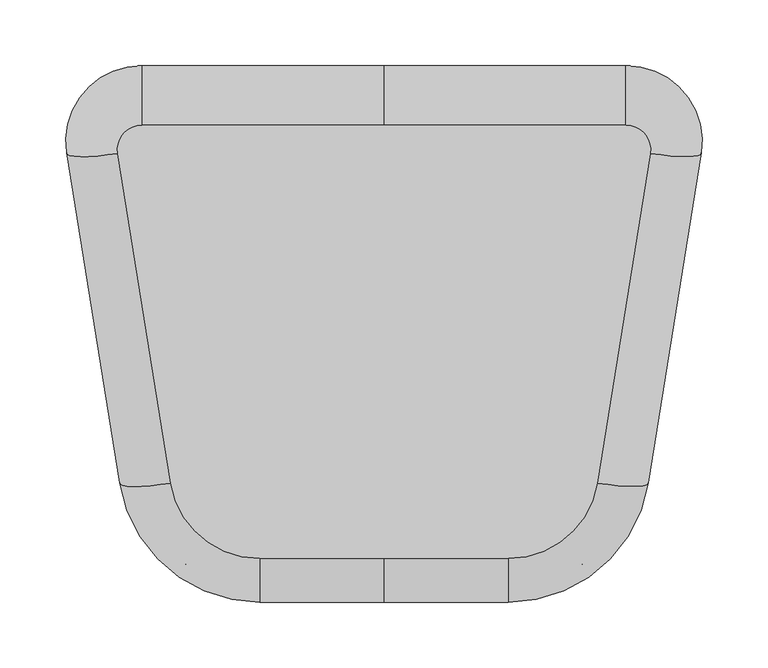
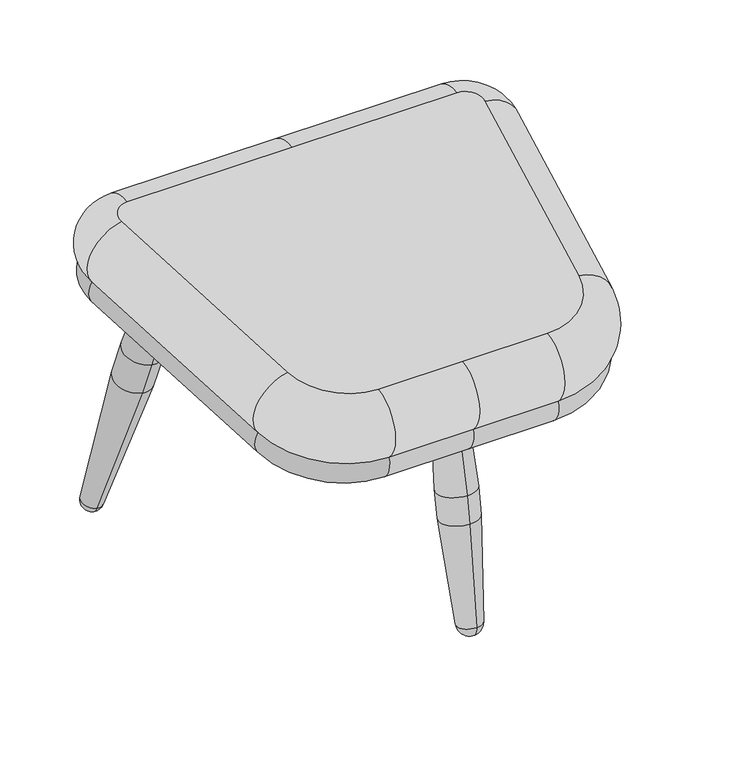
"""IFC4 building model written with IfcOpenShell, lengths in millimetres: furniture geometry, Audo Copenhagen - Brdr P Collection - Oda - Ottoman : Audo Copenhagen - Brdr P Collection - Oda - Ottoman."""

import ifcopenshell
import ifcopenshell.guid

model = None  # the IFC model being written
_history = None  # IfcOwnerHistory: only IFC2X3 demands one
_inside = {}  # id of a spatial element -> (the spatial element, [elements in it])
_under = {}  # id of a project, library or spatial element -> (it, [spatial elements below it])
_declared = {}  # id of a project -> (the project, [libraries it declares])
_typed = {}  # id of a type object -> (the type object, [elements of that type])
_made_of = {}  # id of a material, layer set ... -> (it, [elements and type objects made of it])


def new_model(schema):
    """Start an empty IFC model of exactly this schema.

    Asked for "IFC4X3", IfcOpenShell would pick the latest addendum, in which some entities
    have other attributes; the version numbers below select the first issue.
    IFC2X3 requires an IfcOwnerHistory on every rooted entity: one is made here for all.
    """
    global model, _history
    if schema == "IFC4X3":
        model = ifcopenshell.file(schema_version=(4, 3, 0, 0))
    else:
        model = ifcopenshell.file(schema=schema)
    _inside.clear()
    _under.clear()
    _declared.clear()
    _typed.clear()
    _made_of.clear()
    _history = None
    if model.schema == "IFC2X3":
        org = make("IfcOrganization", Name="unknown")
        user = make(
            "IfcPersonAndOrganization",
            ThePerson=make("IfcPerson", FamilyName="unknown"),
            TheOrganization=org,
        )
        app = make(
            "IfcApplication",
            ApplicationDeveloper=org,
            Version="unknown",
            ApplicationFullName="unknown",
            ApplicationIdentifier="unknown",
        )
        _history = make(
            "IfcOwnerHistory",
            OwningUser=user,
            OwningApplication=app,
            ChangeAction="ADDED",
            CreationDate=0,
        )
    return model


def make(cls, **values):
    """One entity of the class cls with the attributes given. An attribute that is None is left unset."""
    return model.create_entity(
        cls, **{name: value for name, value in values.items() if value is not None}
    )


def rooted(cls, **values):
    """An entity with a GlobalId (a new one), such as an element, a storey or a relation."""
    return make(cls, GlobalId=ifcopenshell.guid.new(), OwnerHistory=_history, **values)


def si_unit(unit_type, name, prefix=None):
    """IfcSIUnit, for example si_unit("LENGTHUNIT", "METRE", prefix="MILLI")."""
    return make("IfcSIUnit", UnitType=unit_type, Prefix=prefix, Name=name)


def assignment(units):
    """IfcUnitAssignment: the units of a project."""
    return None if units is None else make("IfcUnitAssignment", Units=units)


def point(xyz):
    """IfcCartesianPoint."""
    return None if xyz is None else make("IfcCartesianPoint", Coordinates=xyz)


def direction(xyz):
    """IfcDirection."""
    return None if xyz is None else make("IfcDirection", DirectionRatios=xyz)


def frame(location, z_axis=None, x_axis=None):
    """IfcAxis2Placement3D, a coordinate frame: its origin and axes. An axis left out is left unset."""
    return make(
        "IfcAxis2Placement3D",
        Location=point(location),
        Axis=direction(z_axis),
        RefDirection=direction(x_axis),
    )


def origin():
    """The frame at (0, 0, 0) with its axes left unset."""
    return frame((0.0, 0.0, 0.0))


def place(relative_to, where):
    """IfcLocalPlacement: puts the frame where relative to a parent placement (None: the world)."""
    return make(
        "IfcLocalPlacement", PlacementRelTo=relative_to, RelativePlacement=where
    )


def context(
    kind, dimensions, precision=None, world=None, true_north=None, identifier=None
):
    """IfcGeometricRepresentationContext, for example the 3D "Model" context."""
    return make(
        "IfcGeometricRepresentationContext",
        ContextIdentifier=identifier,
        ContextType=kind,
        CoordinateSpaceDimension=dimensions,
        Precision=precision,
        WorldCoordinateSystem=world,
        TrueNorth=true_north,
    )


def project(units=None, contexts=None):
    """IfcProject with its units and contexts."""
    return rooted(
        "IfcProject",
        Name="project",
        RepresentationContexts=contexts,
        UnitsInContext=assignment(units),
    )


def spatial(cls, under=None, at=None, **own):
    """A site, building, storey or space (cls), placed at a placement, below another one or the project."""
    s = rooted(cls, ObjectPlacement=at, **own)
    if under is not None:
        _under.setdefault(under.id(), (under, []))[1].append(s)
    return s


def polyline(points):
    """IfcPolyline through the points."""
    return make("IfcPolyline", Points=[point(p) for p in points])


def circle_curve(where, radius):
    """IfcCircle in the frame where."""
    return make("IfcCircle", Position=where, Radius=radius)


def ellipse_curve(where, semi_axis1, semi_axis2):
    """IfcEllipse in the frame where."""
    return make(
        "IfcEllipse", Position=where, SemiAxis1=semi_axis1, SemiAxis2=semi_axis2
    )


def trimmed(basis, trim1, trim2, sense, master):
    """IfcTrimmedCurve: the piece of a basis curve between two trims."""
    return make(
        "IfcTrimmedCurve",
        BasisCurve=basis,
        Trim1=trim1,
        Trim2=trim2,
        SenseAgreement=sense,
        MasterRepresentation=master,
    )


def shape(context_of_items, identifier, shape_type, items):
    """IfcShapeRepresentation: the items that make up one representation, for example the "Body"."""
    return make(
        "IfcShapeRepresentation",
        ContextOfItems=context_of_items,
        RepresentationIdentifier=identifier,
        RepresentationType=shape_type,
        Items=items,
    )


def source(mapping_origin, context_of_items, identifier, shape_type, items):
    """IfcRepresentationMap: a shape defined once, which mapped items show again and again."""
    return make(
        "IfcRepresentationMap",
        MappingOrigin=mapping_origin,
        MappedRepresentation=shape(context_of_items, identifier, shape_type, items),
    )


def transform(
    local_origin,
    x_axis=None,
    y_axis=None,
    z_axis=None,
    scale=None,
    scale2=None,
    scale3=None,
    uniform=True,
):
    """IfcCartesianTransformationOperator3D, or its non-uniform kind. x_axis, y_axis, z_axis: its Axis1, 2, 3."""
    if uniform:
        return make(
            "IfcCartesianTransformationOperator3D",
            Axis1=direction(x_axis),
            Axis2=direction(y_axis),
            LocalOrigin=point(local_origin),
            Scale=scale,
            Axis3=direction(z_axis),
        )
    return make(
        "IfcCartesianTransformationOperator3DnonUniform",
        Axis1=direction(x_axis),
        Axis2=direction(y_axis),
        LocalOrigin=point(local_origin),
        Scale=scale,
        Axis3=direction(z_axis),
        Scale2=scale2,
        Scale3=scale3,
    )


def mapped(mapping_source, mapping_target):
    """IfcMappedItem: shows the shape of a source again, moved by a transform."""
    return make(
        "IfcMappedItem", MappingSource=mapping_source, MappingTarget=mapping_target
    )


def made_of(thing, what):
    """Note that an element or type object is made of a material, layer set ...; save() writes the relation."""
    if what is not None:
        _made_of.setdefault(what.id(), (what, []))[1].append(thing)
    return thing


def element(
    cls,
    number,
    at=None,
    inside=None,
    cuts=None,
    type_object=None,
    material=None,
    context=None,
    identifier="Body",
    shape_type=None,
    held_by="IfcProductDefinitionShape",
    body=None,
    shapes=None,
    **own,
):
    """One element of the class cls, such as IfcWall. Its Tag is "e" and its number.

    at: its placement. inside: the storey or other place that contains it. cuts: it is an
    opening in that element (IfcRelVoidsElement). A single representation is given by context,
    identifier, shape_type and body (its items); several are given by shapes. held_by: the class
    of the entity that holds the representations. save() writes the other relations.
    """
    e = rooted(cls, Tag="e%d" % number, ObjectPlacement=at, **own)
    if body is not None:
        shapes = [shape(context, identifier, shape_type, body)]
    if shapes is not None:
        e.Representation = make(held_by, Representations=shapes)
    if inside is not None:
        _inside.setdefault(inside.id(), (inside, []))[1].append(e)
    if cuts is not None:
        rooted(
            "IfcRelVoidsElement", RelatingBuildingElement=cuts, RelatedOpeningElement=e
        )
    if type_object is not None:
        _typed.setdefault(type_object.id(), (type_object, []))[1].append(e)
    return made_of(e, material)


def aggregate(whole, parts):
    """IfcRelAggregates: a whole, such as a stair, and the parts it consists of."""
    return rooted("IfcRelAggregates", RelatingObject=whole, RelatedObjects=parts)


def save(model, path):
    """Write the relations noted so far, then the file.

    IfcRelAggregates (storeys below a building ...), IfcRelContainedInSpatialStructure (elements
    in a storey), IfcRelDefinesByType, IfcRelAssociatesMaterial and IfcRelDeclares: one each for
    every whole, place, type object, material and project.
    """
    for whole, parts in _under.values():
        aggregate(whole, parts)
    for where, things in _inside.values():
        rooted(
            "IfcRelContainedInSpatialStructure",
            RelatedElements=things,
            RelatingStructure=where,
        )
    for kind, things in _typed.values():
        rooted("IfcRelDefinesByType", RelatedObjects=things, RelatingType=kind)
    for what, things in _made_of.values():
        rooted("IfcRelAssociatesMaterial", RelatedObjects=things, RelatingMaterial=what)
    for by, libraries in _declared.values():
        rooted("IfcRelDeclares", RelatingContext=by, RelatedDefinitions=libraries)
    model.write(path)


def plane_surface(at):
    """IfcPlane: the flat surface through the origin of the frame at, square to its z axis."""
    return make("IfcPlane", Position=at)


def cylinder_surface(at, radius):
    """IfcCylindricalSurface: all points at the distance radius from the z axis of the frame at."""
    return make("IfcCylindricalSurface", Position=at, Radius=radius)


def revolved_surface(curve, axis_point, axis_direction):
    """IfcSurfaceOfRevolution: the curve turned about the line through axis_point along axis_direction."""
    return make(
        "IfcSurfaceOfRevolution",
        SweptCurve=make("IfcArbitraryOpenProfileDef", ProfileType="CURVE", Curve=curve),
        AxisPosition=make("IfcAxis1Placement", Location=point(axis_point), Axis=direction(axis_direction)),
    )


def advanced_brep(points, edges, surfaces, faces):
    """IfcAdvancedBrep: a solid bounded by faces that lie on surfaces and meet in shared edges.

    An edge is (start, end): straight between two places in points (the first is 0);
    or (start, end, curve); or (start, end, curve, False) where it runs against its curve.
    A face is (place in surfaces, loops), or (place, loops, False) where it looks against
    its surface's normal. A loop lists edges by number (the first is 1), with a minus sign
    where the edge is run from its end to its start. The first loop is the outer one.
    """
    corners = [point(p) for p in points]
    vertices = [make("IfcVertexPoint", VertexGeometry=c) for c in corners]
    made = []
    for start, end, *more in edges:
        made.append(
            make(
                "IfcEdgeCurve",
                EdgeStart=vertices[start],
                EdgeEnd=vertices[end],
                EdgeGeometry=more[0] if more else make("IfcPolyline", Points=[corners[start], corners[end]]),
                SameSense=more[1] if len(more) > 1 else True,
            )
        )
    hull = []
    for where, loops, *sense in faces:
        bounds = []
        for j, loop in enumerate(loops):
            ring = [make("IfcOrientedEdge", EdgeElement=made[abs(k) - 1], Orientation=k > 0) for k in loop]
            bounds.append(
                make(
                    "IfcFaceOuterBound" if j == 0 else "IfcFaceBound",
                    Bound=make("IfcEdgeLoop", EdgeList=ring),
                    Orientation=True,
                )
            )
        hull.append(make("IfcAdvancedFace", Bounds=bounds, FaceSurface=surfaces[where], SameSense=sense[0] if sense else True))
    return make("IfcAdvancedBrep", Outer=make("IfcClosedShell", CfsFaces=hull))


def furniture_2552bbda(model_context):
    return source(origin(), model_context, "Body", "AdvancedBrep", [
        advanced_brep(
        [(210.798482, 190.2014796, 11.0071904), (211.6223994, 167.1270855, 6.3345225), (184.9584569, 125.9830783, 157.553255), (183.4788705, 167.4199493, 165.9444064), (213.0990114, 180.9006655, -2.0397603), (161.2194318, 136.9193922, 292.1839561), (162.415244, 103.4298188, 285.4021679), (161.9503765, 120.3321454, 288.0385628), (177.0773549, 160.0941951, 202.2492053), (178.5743931, 118.1685728, 193.7590796)],
        [
            (0, 1, circle_curve(frame((211.2104407, 178.6642826, 8.6708564), z_axis=(-0.17008945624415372, -0.20141430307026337, 0.964625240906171), x_axis=(0.03497522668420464, -0.9795061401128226, -0.19835436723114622)), 11.7785858)),
            (1, 2),
            (2, 3, circle_curve(frame((184.2186637, 146.7015138, 161.7488307), z_axis=(0.17008945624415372, 0.20141430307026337, -0.964625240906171), x_axis=(0.03497522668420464, -0.9795061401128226, -0.19835436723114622)), 21.15192)),
            (3, 0),
            (1, 0, circle_curve(frame((211.2104407, 178.6642826, 8.6708564), z_axis=(-0.17008945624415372, -0.20141430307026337, 0.964625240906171), x_axis=(0.03497522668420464, -0.9795061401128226, -0.19835436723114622)), 11.7785858)),
            (3, 2, circle_curve(frame((184.2186637, 146.7015138, 161.7488307), z_axis=(0.17008945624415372, 0.20141430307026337, -0.964625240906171), x_axis=(0.03497522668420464, -0.9795061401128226, -0.19835436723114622)), 21.15192)),
            (4, 1, circle_curve(frame((211.0921064, 178.524155, 9.3419635), z_axis=(-0.9848077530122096, 0.0, -0.17364817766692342), x_axis=(0.0, -1.0000000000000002, 0.0)), 11.7991146)),
            (0, 4, circle_curve(frame((211.0921064, 178.524155, 9.3419635), z_axis=(-0.9848077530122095, 0.0, -0.173648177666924), x_axis=(-0.06851689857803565, 0.9188645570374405, 0.3885786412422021)), 11.7991146)),
            (5, 6, circle_curve(frame((161.8173379, 120.1746055, 288.793062), z_axis=(-0.17008945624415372, -0.20141430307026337, 0.964625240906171), x_axis=(0.03497522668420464, -0.9795061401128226, -0.19835436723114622)), 17.095132)),
            (6, 7),
            (7, 5),
            (6, 5, circle_curve(frame((161.8173379, 120.1746055, 288.793062), z_axis=(-0.17008945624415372, -0.20141430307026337, 0.964625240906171), x_axis=(0.03497522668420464, -0.9795061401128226, -0.19835436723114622)), 17.095132)),
            (8, 9, circle_curve(frame((177.825874, 139.1313839, 198.0041425), z_axis=(-0.17008945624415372, -0.20141430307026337, 0.964625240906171), x_axis=(0.03497522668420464, -0.9795061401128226, -0.19835436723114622)), 21.4014086)),
            (9, 6),
            (5, 8),
            (9, 8, circle_curve(frame((177.825874, 139.1313839, 198.0041425), z_axis=(-0.17008945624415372, -0.20141430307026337, 0.964625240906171), x_axis=(0.03497522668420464, -0.9795061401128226, -0.19835436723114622)), 21.4014086)),
            (2, 9, circle_curve(frame((168.8201157, 472.8286943, 249.0783358), z_axis=(-0.9848077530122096, 0.0, -0.17364817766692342), x_axis=(0.0, -1.0000000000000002, 0.0)), 359.0810045)),
            (8, 3, circle_curve(frame((192.4147067, -187.9546346, 115.266761), z_axis=(-0.9848077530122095, 0.0, -0.173648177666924), x_axis=(-0.06851689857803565, 0.9188645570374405, 0.3885786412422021)), 359.0810045)),
        ],
        [
            revolved_surface(polyline([(184.9584569, 125.9830783, 157.553255), (211.6223994, 167.1270855, 6.3345225)]), (161.9503765, 120.3321454, 288.0385628), (0.17008945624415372, 0.20141430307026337, -0.964625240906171)),
            revolved_surface(trimmed(ellipse_curve(frame((211.0921064, 178.524155, 9.3419635), z_axis=(0.9848077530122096, 0.0, 0.17364817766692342), x_axis=(0.0, -1.0000000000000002, 0.0)), 11.7991146, 11.7991146), [point((211.6223994, 167.1270855, 6.3345225))], [point((213.0990114, 180.9006655, -2.0397603))], True, "CARTESIAN"), (161.9503765, 120.3321454, 288.0385628), (0.17008945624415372, 0.20141430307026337, -0.964625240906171)),
            revolved_surface(polyline([(161.9503765, 120.3321454, 288.0385628), (162.415244, 103.4298188, 285.4021679)]), (161.9503765, 120.3321454, 288.0385628), (0.17008945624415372, 0.20141430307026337, -0.964625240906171)),
            revolved_surface(polyline([(162.415244, 103.4298188, 285.4021679), (178.5743931, 118.1685728, 193.7590796)]), (161.9503765, 120.3321454, 288.0385628), (0.17008945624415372, 0.20141430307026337, -0.964625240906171)),
            revolved_surface(trimmed(ellipse_curve(frame((168.8201157, 472.8286943, 249.0783358), z_axis=(0.9848077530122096, 0.0, 0.17364817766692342), x_axis=(0.0, -1.0000000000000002, 0.0)), 359.0810045, 359.0810045), [point((178.5743931, 118.1685728, 193.7590796))], [point((184.9584569, 125.9830783, 157.553255))], True, "CARTESIAN"), (161.9503765, 120.3321454, 288.0385628), (0.17008945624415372, 0.20141430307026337, -0.964625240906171)),
        ],
        [
            (0, [[1, 2, 3, 4]]),
            (0, [[5, -4, 6, -2]]),
            (1, [[7, -1, 8]]),
            (1, [[-8, -5, -7]]),
            (2, [[9, 10, 11]]),
            (2, [[12, -11, -10]]),
            (3, [[13, 14, -9, 15]]),
            (3, [[16, -15, -12, -14]]),
            (4, [[-3, 17, -13, 18]]),
            (4, [[-6, -18, -16, -17]]),
        ],
    ),
        advanced_brep(
        [(0.0, -172.3336909, 311.4367809), (94.349705, -172.3336909, 311.4367809), (162.2615347, -115.0445196, 320.5034219), (202.5012184, 135.8956875, 360.2174677), (183.9738058, 157.3218345, 363.608391), (0.0, 157.3218345, 363.608391), (-183.9738058, 157.3218345, 363.608391), (-202.5012184, 135.8956875, 360.2174677), (-162.2615347, -115.0445196, 320.5034219), (-94.349705, -172.3336909, 311.4367809), (94.349705, -163.0192129, 209.6553785), (0.0, -163.0192129, 209.6553785), (-94.349705, -163.0192129, 209.6553785), (-168.8889588, -100.1392686, 219.6068208), (-209.1286425, 150.8009385, 259.3208666), (-183.9738058, 179.8914133, 263.924754), (0.0, 179.8914133, 263.924754), (183.9738058, 179.8914133, 263.924754), (209.1286425, 150.8009385, 259.3208666), (168.8889588, -100.1392686, 219.6068208), (0.0, -193.0505364, 243.8302624), (94.349705, -193.0505364, 243.8302624), (192.9096272, -109.9071977, 256.9886096), (233.1493109, 141.0330094, 296.7026554), (183.9738058, 197.9023426, 305.7028524), (0.0, 197.9023426, 305.7028524), (-183.9738058, 197.9023426, 305.7028524), (-233.1493109, 141.0330094, 296.7026554), (-192.9096272, -109.9071977, 256.9886096), (-94.349705, -193.0505364, 243.8302624)],
        [
            (0, 1),
            (1, 2, circle_curve(frame((94.349705, -104.4205663, 322.1847793), z_axis=(0.0, -0.15631551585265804, 0.9877071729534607), x_axis=(0.0, -0.9877071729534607, -0.15631551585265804)), 68.7583592)),
            (2, 3),
            (3, 4, circle_curve(frame((183.9738058, 138.7940686, 360.6761684), z_axis=(0.0, -0.15631551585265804, 0.9877071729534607), x_axis=(0.9876883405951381, -0.15451144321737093, -0.024453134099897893)), 18.7583592)),
            (4, 5),
            (5, 6),
            (6, 7, circle_curve(frame((-183.9738058, 138.7940686, 360.6761684), z_axis=(0.0, -0.15631551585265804, 0.9877071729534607), x_axis=(0.0, 0.9877071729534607, 0.15631551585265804)), 18.7583592)),
            (7, 8),
            (8, 9, circle_curve(frame((-94.349705, -104.4205663, 322.1847793), z_axis=(0.0, -0.15631551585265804, 0.9877071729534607), x_axis=(-0.9876883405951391, -0.15451144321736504, -0.024453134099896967)), 68.7583592)),
            (9, 0),
            (10, 11),
            (11, 12),
            (12, 13, circle_curve(frame((-94.349705, -88.4785379, 221.4522596), z_axis=(0.0, 0.15631551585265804, -0.9877071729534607), x_axis=(-0.9876883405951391, -0.15451144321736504, -0.024453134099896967)), 75.4683949)),
            (13, 14),
            (14, 15, circle_curve(frame((-183.9738058, 154.736097, 259.9436487), z_axis=(0.0, 0.15631551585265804, -0.9877071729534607), x_axis=(0.0, 0.9877071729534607, 0.15631551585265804)), 25.4683949)),
            (15, 16),
            (16, 17),
            (17, 18, circle_curve(frame((183.9738058, 154.736097, 259.9436487), z_axis=(0.0, 0.15631551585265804, -0.9877071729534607), x_axis=(0.9876883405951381, -0.15451144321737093, -0.024453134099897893)), 25.4683949)),
            (18, 19),
            (19, 10, circle_curve(frame((94.349705, -88.4785379, 221.4522596), z_axis=(0.0, 0.15631551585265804, -0.9877071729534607), x_axis=(0.0, -0.9877071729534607, -0.15631551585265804)), 75.4683949)),
            (20, 21),
            (21, 1, circle_curve(frame((94.349705, -166.1833384, 272.5746937), z_axis=(-1.0, 0.0, 0.0), x_axis=(0.0, -1.0, 0.0)), 39.3457578)),
            (0, 20, circle_curve(frame((0.0, -166.1833384, 272.5746937), z_axis=(1.0, 0.0, 0.0), x_axis=(0.0, -1.0, 0.0)), 39.3457578)),
            (21, 22, circle_curve(frame((94.349705, -94.4887351, 259.4287507), z_axis=(0.0, -0.15631551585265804, 0.9877071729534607), x_axis=(0.0, -0.9877071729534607, -0.15631551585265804)), 99.788484)),
            (22, 2, circle_curve(frame((162.2615347, -108.8941672, 281.6413347), z_axis=(-0.15643446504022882, -0.9755468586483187, -0.15439101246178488), x_axis=(0.9755468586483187, -0.17704660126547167, 0.1302414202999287)), 39.3457578)),
            (22, 23),
            (23, 3, circle_curve(frame((202.5012184, 142.0460399, 321.3553805), z_axis=(-0.1564344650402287, -0.9755468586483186, -0.15439101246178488), x_axis=(0.9755468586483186, -0.17704660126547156, 0.13024142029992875)), 39.3457578)),
            (23, 24, circle_curve(frame((183.9738058, 148.7258999, 297.9201398), z_axis=(0.0, -0.15631551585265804, 0.9877071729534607), x_axis=(0.9876883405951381, -0.15451144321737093, -0.024453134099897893)), 49.788484)),
            (24, 4, circle_curve(frame((183.9738058, 163.472187, 324.7463038), z_axis=(1.0000000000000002, 0.0, 0.0), x_axis=(0.0, 0.9511309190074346, 0.3087879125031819)), 39.3457578)),
            (24, 25),
            (25, 5, circle_curve(frame((0.0, 163.472187, 324.7463038), z_axis=(1.0, 0.0, 0.0), x_axis=(0.0, 0.9511309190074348, 0.30878791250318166)), 39.3457578)),
            (25, 26),
            (26, 6, circle_curve(frame((-183.9738058, 163.472187, 324.7463038), z_axis=(1.0, 0.0, 0.0), x_axis=(0.0, 0.9511309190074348, 0.30878791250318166)), 39.3457578)),
            (26, 27, circle_curve(frame((-183.9738058, 148.7258999, 297.9201398), z_axis=(0.0, -0.15631551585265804, 0.9877071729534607), x_axis=(0.0, 0.9877071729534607, 0.15631551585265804)), 49.788484)),
            (27, 7, circle_curve(frame((-202.5012184, 142.0460399, 321.3553805), z_axis=(-0.15643446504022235, 0.9755468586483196, 0.154391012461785), x_axis=(-0.9755468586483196, -0.17704660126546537, 0.1302414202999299)), 39.3457578)),
            (27, 28),
            (28, 8, circle_curve(frame((-162.2615347, -108.8941672, 281.6413347), z_axis=(-0.15643446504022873, 0.9755468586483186, 0.1543910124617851), x_axis=(-0.9755468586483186, -0.17704660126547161, 0.1302414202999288)), 39.3457578)),
            (28, 29, circle_curve(frame((-94.349705, -94.4887351, 259.4287507), z_axis=(0.0, -0.15631551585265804, 0.9877071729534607), x_axis=(-0.9876883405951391, -0.15451144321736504, -0.024453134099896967)), 99.788484)),
            (29, 9, circle_curve(frame((-94.349705, -166.1833384, 272.5746937), z_axis=(-1.0000000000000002, 0.0, 0.0), x_axis=(0.0, -1.0000000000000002, 0.0)), 39.3457578)),
            (29, 20),
            (20, 11, circle_curve(frame((0.0, -167.2266196, 236.2406202), z_axis=(1.0, 0.0, 0.0), x_axis=(0.0, -1.0, 0.0)), 26.9161169)),
            (10, 21, circle_curve(frame((94.349705, -167.2266196, 236.2406202), z_axis=(-1.0, 0.0, 0.0), x_axis=(0.0, -1.0, 0.0)), 26.9161169)),
            (19, 22, circle_curve(frame((168.8889588, -104.3466752, 246.1920625), z_axis=(-0.15643446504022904, -0.9755468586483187, -0.15439101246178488), x_axis=(0.9755468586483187, -0.17704660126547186, 0.13024142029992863)), 26.9161169)),
            (18, 23, circle_curve(frame((209.1286425, 146.5935318, 285.9061084), z_axis=(-0.1564344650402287, -0.9755468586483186, -0.15439101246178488), x_axis=(0.9755468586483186, -0.17704660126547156, 0.13024142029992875)), 26.9161169)),
            (17, 24, circle_curve(frame((183.9738058, 175.6840066, 290.5099957), z_axis=(1.0000000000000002, 0.0, 0.0), x_axis=(0.0, 0.9511309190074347, 0.30878791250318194)), 26.9161169)),
            (16, 25, circle_curve(frame((0.0, 175.6840066, 290.5099957), z_axis=(1.0, 0.0, 0.0), x_axis=(0.0, 0.9511309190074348, 0.30878791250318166)), 26.9161169)),
            (15, 26, circle_curve(frame((-183.9738058, 175.6840066, 290.5099957), z_axis=(1.0, 0.0, 0.0), x_axis=(0.0, 0.9511309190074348, 0.30878791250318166)), 26.9161169)),
            (14, 27, circle_curve(frame((-209.1286425, 146.5935318, 285.9061084), z_axis=(-0.15643446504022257, 0.9755468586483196, 0.154391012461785), x_axis=(-0.9755468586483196, -0.1770466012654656, 0.13024142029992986)), 26.9161169)),
            (13, 28, circle_curve(frame((-168.8889588, -104.3466752, 246.1920625), z_axis=(-0.15643446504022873, 0.9755468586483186, 0.1543910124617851), x_axis=(-0.9755468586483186, -0.17704660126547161, 0.1302414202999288)), 26.9161169)),
            (12, 29, circle_curve(frame((-94.349705, -167.2266196, 236.2406202), z_axis=(-1.0000000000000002, 0.0, 0.0), x_axis=(0.0, -1.0000000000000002, 0.0)), 26.9161169)),
        ],
        [
            plane_surface(frame((-123.9738058, 138.7940686, 360.6761684), z_axis=(0.0, -0.15631551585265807, 0.9877071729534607), x_axis=(0.0, 0.9877071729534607, 0.15631551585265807))),
            plane_surface(frame((-123.9738058, 154.736097, 259.9436487), z_axis=(0.0, 0.15631551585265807, -0.9877071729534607), x_axis=(0.0, -0.9877071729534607, -0.15631551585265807))),
            cylinder_surface(frame((0.0, -166.1833384, 272.5746937), z_axis=(1.0, 0.0, 0.0), x_axis=(0.0, -1.0, 0.0)), 39.3457578),
            revolved_surface(trimmed(ellipse_curve(frame((94.349705, -166.1833384, 272.5746937), z_axis=(-1.0, 0.0, 0.0), x_axis=(0.0, -1.0, 0.0)), 39.3457578, 39.3457578), [point((94.349705, -193.0505364, 243.8302624))], [point((94.349705, -172.3336909, 311.4367809))], True, "CARTESIAN"), (94.349705, -104.4205663, 322.1847793), (0.0, -0.15631551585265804, 0.9877071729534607)),
            cylinder_surface(frame((162.2615347, -108.8941672, 281.6413347), z_axis=(0.1564344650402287, 0.9755468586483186, 0.15439101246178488), x_axis=(0.9755468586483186, -0.17704660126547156, 0.13024142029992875)), 39.3457578),
            revolved_surface(trimmed(ellipse_curve(frame((202.5012184, 142.0460399, 321.3553805), z_axis=(-0.1564344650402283, -0.9755468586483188, -0.1543910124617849), x_axis=(0.9755468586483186, -0.17704660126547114, 0.13024142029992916)), 39.3457578, 39.3457578), [point((233.1493109, 141.0330094, 296.7026554))], [point((202.5012184, 135.8956875, 360.2174677))], True, "CARTESIAN"), (183.9738058, 138.7940686, 360.6761684), (0.0, -0.15631551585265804, 0.9877071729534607)),
            cylinder_surface(frame((183.9738058, 163.472187, 324.7463038), z_axis=(-1.0, 0.0, 0.0), x_axis=(0.0, 0.9511309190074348, 0.30878791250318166)), 39.3457578),
            cylinder_surface(frame((0.0, 163.472187, 324.7463038), z_axis=(-1.0, 0.0, 0.0), x_axis=(0.0, 0.9511309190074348, 0.30878791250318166)), 39.3457578),
            revolved_surface(trimmed(ellipse_curve(frame((-183.9738058, 163.472187, 324.7463038), z_axis=(1.0, 0.0, 0.0), x_axis=(0.0, 0.9511309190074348, 0.3087879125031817)), 39.3457578, 39.3457578), [point((-183.9738058, 197.9023426, 305.7028524))], [point((-183.9738058, 157.3218345, 363.608391))], True, "CARTESIAN"), (-183.9738058, 138.7940686, 360.6761684), (0.0, -0.15631551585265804, 0.9877071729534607)),
            cylinder_surface(frame((-202.5012184, 142.0460399, 321.3553805), z_axis=(0.15643446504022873, -0.9755468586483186, -0.1543910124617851), x_axis=(-0.9755468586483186, -0.17704660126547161, 0.1302414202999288)), 39.3457578),
            revolved_surface(trimmed(ellipse_curve(frame((-162.2615347, -108.8941672, 281.6413347), z_axis=(-0.1564344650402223, 0.9755468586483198, 0.1543910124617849), x_axis=(-0.9755468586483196, -0.17704660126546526, 0.1302414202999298)), 39.3457578, 39.3457578), [point((-192.9096272, -109.9071977, 256.9886096))], [point((-162.2615347, -115.0445196, 320.5034219))], True, "CARTESIAN"), (-94.349705, -104.4205663, 322.1847793), (0.0, -0.15631551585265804, 0.9877071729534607)),
            cylinder_surface(frame((-94.349705, -166.1833384, 272.5746937), z_axis=(1.0, 0.0, 0.0), x_axis=(0.0, -1.0, 0.0)), 39.3457578),
            cylinder_surface(frame((0.0, -167.2266196, 236.2406202), z_axis=(1.0, 0.0, 0.0), x_axis=(0.0, -1.0, 0.0)), 26.9161169),
            revolved_surface(trimmed(ellipse_curve(frame((94.349705, -167.2266196, 236.2406202), z_axis=(-1.0, 0.0, 0.0), x_axis=(0.0, -1.0, 0.0)), 26.9161169, 26.9161169), [point((94.349705, -163.0192129, 209.6553785))], [point((94.349705, -193.0505364, 243.8302624))], True, "CARTESIAN"), (94.349705, -104.4205663, 322.1847793), (0.0, -0.15631551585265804, 0.9877071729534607)),
            cylinder_surface(frame((168.8889588, -104.3466752, 246.1920625), z_axis=(0.1564344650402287, 0.9755468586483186, 0.15439101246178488), x_axis=(0.9755468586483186, -0.17704660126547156, 0.13024142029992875)), 26.9161169),
            revolved_surface(trimmed(ellipse_curve(frame((209.1286425, 146.5935318, 285.9061084), z_axis=(-0.1564344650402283, -0.9755468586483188, -0.1543910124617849), x_axis=(0.9755468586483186, -0.17704660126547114, 0.13024142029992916)), 26.9161169, 26.9161169), [point((209.1286425, 150.8009385, 259.3208666))], [point((233.1493109, 141.0330094, 296.7026554))], True, "CARTESIAN"), (183.9738058, 138.7940686, 360.6761684), (0.0, -0.15631551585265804, 0.9877071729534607)),
            cylinder_surface(frame((183.9738058, 175.6840066, 290.5099957), z_axis=(-1.0, 0.0, 0.0), x_axis=(0.0, 0.9511309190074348, 0.30878791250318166)), 26.9161169),
            cylinder_surface(frame((0.0, 175.6840066, 290.5099957), z_axis=(-1.0, 0.0, 0.0), x_axis=(0.0, 0.9511309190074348, 0.30878791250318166)), 26.9161169),
            revolved_surface(trimmed(ellipse_curve(frame((-183.9738058, 175.6840066, 290.5099957), z_axis=(1.0, 0.0, 0.0), x_axis=(0.0, 0.9511309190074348, 0.3087879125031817)), 26.9161169, 26.9161169), [point((-183.9738058, 179.8914133, 263.924754))], [point((-183.9738058, 197.9023426, 305.7028524))], True, "CARTESIAN"), (-183.9738058, 138.7940686, 360.6761684), (0.0, -0.15631551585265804, 0.9877071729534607)),
            cylinder_surface(frame((-209.1286425, 146.5935318, 285.9061084), z_axis=(0.15643446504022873, -0.9755468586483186, -0.1543910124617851), x_axis=(-0.9755468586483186, -0.17704660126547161, 0.1302414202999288)), 26.9161169),
            revolved_surface(trimmed(ellipse_curve(frame((-168.8889588, -104.3466752, 246.1920625), z_axis=(-0.1564344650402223, 0.9755468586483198, 0.1543910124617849), x_axis=(-0.9755468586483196, -0.17704660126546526, 0.1302414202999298)), 26.9161169, 26.9161169), [point((-168.8889588, -100.1392686, 219.6068208))], [point((-192.9096272, -109.9071977, 256.9886096))], True, "CARTESIAN"), (-94.349705, -104.4205663, 322.1847793), (0.0, -0.15631551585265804, 0.9877071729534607)),
            cylinder_surface(frame((-94.349705, -167.2266196, 236.2406202), z_axis=(1.0, 0.0, 0.0), x_axis=(0.0, -1.0, 0.0)), 26.9161169),
        ],
        [
            (0, [[1, 2, 3, 4, 5, 6, 7, 8, 9, 10]]),
            (1, [[11, 12, 13, 14, 15, 16, 17, 18, 19, 20]]),
            (2, [[21, 22, -1, 23]]),
            (3, [[-22, 24, 25, -2]]),
            (4, [[-25, 26, 27, -3]]),
            (5, [[-27, 28, 29, -4]]),
            (6, [[-29, 30, 31, -5]]),
            (7, [[-31, 32, 33, -6]]),
            (8, [[-33, 34, 35, -7]]),
            (9, [[-35, 36, 37, -8]]),
            (10, [[-37, 38, 39, -9]]),
            (11, [[-23, -10, -39, 40]]),
            (12, [[-21, 41, -11, 42]]),
            (13, [[-24, -42, -20, 43]]),
            (14, [[-26, -43, -19, 44]]),
            (15, [[-28, -44, -18, 45]]),
            (16, [[-30, -45, -17, 46]]),
            (17, [[-32, -46, -16, 47]]),
            (18, [[-34, -47, -15, 48]]),
            (19, [[-36, -48, -14, 49]]),
            (20, [[-38, -49, -13, 50]]),
            (21, [[-40, -50, -12, -41]]),
        ],
    ),
        advanced_brep(
        [(0.0, -171.6224361, 8.3583877), (0.0, -198.6610304, 13.1260214), (0.0, -186.0856996, 127.4234712), (0.0, -144.3473516, 120.0638743), (0.0, -187.3755382, -1.9263327), (0.0, -126.6800845, 245.3519423), (0.0, -159.8364571, 251.1983053), (0.0, -143.2582708, 248.2751238), (0.0, -138.6840523, 150.6964811), (0.0, -180.9304915, 158.1456682)],
        [
            (0, 1, circle_curve(frame((0.0, -185.1417333, 10.7422046), z_axis=(0.0, 0.17364817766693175, 0.984807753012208), x_axis=(0.0, -0.9848077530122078, 0.17364817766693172)), 13.7278541)),
            (1, 2),
            (2, 3, circle_curve(frame((0.0, -165.2165256, 123.7436727), z_axis=(0.0, -0.17364817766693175, -0.984807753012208), x_axis=(0.0, -0.9848077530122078, 0.17364817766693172)), 21.1911146)),
            (3, 0),
            (1, 0, circle_curve(frame((0.0, -185.1417333, 10.7422046), z_axis=(0.0, 0.17364817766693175, 0.984807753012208), x_axis=(0.0, -0.9848077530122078, 0.17364817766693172)), 13.7278541)),
            (3, 2, circle_curve(frame((0.0, -165.2165256, 123.7436727), z_axis=(0.0, -0.17364817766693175, -0.984807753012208), x_axis=(0.0, -0.9848077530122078, 0.17364817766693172)), 21.1911146)),
            (4, 1, circle_curve(frame((0.0, -184.9866843, 11.6215309), z_axis=(-1.0000000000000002, 0.0, 0.0), x_axis=(0.0, -1.0, 0.0)), 13.7568613)),
            (0, 4, circle_curve(frame((0.0, -184.9866843, 11.6215309), z_axis=(-1.0000000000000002, 0.0, 0.0), x_axis=(0.0, 0.9396926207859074, -0.3420201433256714)), 13.7568613)),
            (5, 6, circle_curve(frame((0.0, -143.2582708, 248.2751238), z_axis=(0.0, 0.17364817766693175, 0.984807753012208), x_axis=(0.0, -0.9848077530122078, 0.17364817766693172)), 16.8339315)),
            (6, 7),
            (7, 5),
            (6, 5, circle_curve(frame((0.0, -143.2582708, 248.2751238), z_axis=(0.0, 0.17364817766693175, 0.984807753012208), x_axis=(0.0, -0.9848077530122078, 0.17364817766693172)), 16.8339315)),
            (8, 9, circle_curve(frame((0.0, -159.8072719, 154.4210747), z_axis=(0.0, 0.17364817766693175, 0.984807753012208), x_axis=(0.0, -0.9848077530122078, 0.17364817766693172)), 21.4490793)),
            (9, 6),
            (5, 8),
            (9, 8, circle_curve(frame((0.0, -159.8072719, 154.4210747), z_axis=(0.0, 0.17364817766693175, 0.984807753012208), x_axis=(0.0, -0.9848077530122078, 0.17364817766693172)), 21.4490793)),
            (2, 9, circle_curve(frame((0.0, 87.2648195, 97.3486687), z_axis=(-1.0000000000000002, 0.0, 0.0), x_axis=(0.0, -1.0, 0.0)), 275.0)),
            (8, 3, circle_curve(frame((0.0, -411.4990055, 185.2941881), z_axis=(-1.0000000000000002, 0.0, 0.0), x_axis=(0.0, 0.9396926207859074, -0.3420201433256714)), 275.0)),
        ],
        [
            revolved_surface(polyline([(0.0, -186.0856996, 127.4234712), (0.0, -198.6610304, 13.1260214)]), (0.0, -187.3502396, -1.7828572), (0.0, -0.17364817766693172, -0.9848077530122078)),
            revolved_surface(trimmed(ellipse_curve(frame((0.0, -184.9866843, 11.6215309), z_axis=(1.0000000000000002, 0.0, 0.0), x_axis=(0.0, -1.0, 0.0)), 13.7568613, 13.7568613), [point((0.0, -198.6610304, 13.1260214))], [point((0.0, -187.3755382, -1.9263327))], True, "CARTESIAN"), (0.0, -187.3502396, -1.7828572), (0.0, -0.17364817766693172, -0.9848077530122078)),
            plane_surface(frame((0.0, -143.2582708, 248.2751238), z_axis=(0.0, 0.17364817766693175, 0.9848077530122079), x_axis=(0.0, -0.9848077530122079, 0.17364817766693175))),
            revolved_surface(polyline([(0.0, -159.8364571, 251.1983053), (0.0, -180.9304915, 158.1456682)]), (0.0, -187.3502396, -1.7828572), (0.0, -0.17364817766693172, -0.9848077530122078)),
            revolved_surface(trimmed(ellipse_curve(frame((0.0, 87.2648195, 97.3486687), z_axis=(1.0000000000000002, 0.0, 0.0), x_axis=(0.0, -1.0, 0.0)), 275.0, 275.0), [point((0.0, -180.9304915, 158.1456682))], [point((0.0, -186.0856996, 127.4234712))], True, "CARTESIAN"), (0.0, -187.3502396, -1.7828572), (0.0, -0.17364817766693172, -0.9848077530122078)),
        ],
        [
            (0, [[1, 2, 3, 4]]),
            (0, [[5, -4, 6, -2]]),
            (1, [[7, -1, 8]]),
            (1, [[-8, -5, -7]]),
            (2, [[9, 10, 11]]),
            (2, [[12, -11, -10]]),
            (3, [[13, 14, -9, 15]]),
            (3, [[16, -15, -12, -14]]),
            (4, [[-3, 17, -13, 18]]),
            (4, [[-6, -18, -16, -17]]),
        ],
    ),
        advanced_brep(
        [(-183.4788705, 167.4199493, 165.9444064), (-184.9584569, 125.9830783, 157.553255), (-211.6223994, 167.1270855, 6.3345225), (-210.798482, 190.2014796, 11.0071904), (-213.0990114, 180.9006655, -2.0397603), (-161.9503765, 120.3321454, 288.0385628), (-162.415244, 103.4298188, 285.4021679), (-161.2194318, 136.9193922, 292.1839561), (-178.5743931, 118.1685728, 193.7590796), (-177.0773549, 160.0941951, 202.2492053)],
        [
            (0, 1, circle_curve(frame((-184.2186637, 146.7015138, 161.7488307), z_axis=(-0.17008945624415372, 0.2014143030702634, -0.9646252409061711), x_axis=(-0.034975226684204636, -0.9795061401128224, -0.1983543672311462)), 21.15192)),
            (1, 2),
            (2, 3, circle_curve(frame((-211.2104407, 178.6642826, 8.6708564), z_axis=(0.17008945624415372, -0.2014143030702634, 0.9646252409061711), x_axis=(-0.034975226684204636, -0.9795061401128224, -0.1983543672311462)), 11.7785858)),
            (3, 0),
            (1, 0, circle_curve(frame((-184.2186637, 146.7015138, 161.7488307), z_axis=(-0.17008945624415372, 0.2014143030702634, -0.9646252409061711), x_axis=(-0.034975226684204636, -0.9795061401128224, -0.1983543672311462)), 21.15192)),
            (3, 2, circle_curve(frame((-211.2104407, 178.6642826, 8.6708564), z_axis=(0.17008945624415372, -0.2014143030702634, 0.9646252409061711), x_axis=(-0.034975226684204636, -0.9795061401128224, -0.1983543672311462)), 11.7785858)),
            (2, 4, circle_curve(frame((-211.0921064, 178.524155, 9.3419635), z_axis=(0.9848077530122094, 0.0, -0.1736481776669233), x_axis=(0.0, -1.0, 0.0)), 11.7991146)),
            (4, 3, circle_curve(frame((-211.0921064, 178.524155, 9.3419635), z_axis=(0.9848077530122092, 0.0, -0.17364817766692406), x_axis=(0.06851689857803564, 0.9188645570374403, 0.388578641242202)), 11.7991146)),
            (5, 6),
            (6, 7, circle_curve(frame((-161.8173379, 120.1746055, 288.793062), z_axis=(0.17008945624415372, -0.2014143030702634, 0.9646252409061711), x_axis=(-0.034975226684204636, -0.9795061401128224, -0.1983543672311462)), 17.095132)),
            (7, 5),
            (7, 6, circle_curve(frame((-161.8173379, 120.1746055, 288.793062), z_axis=(0.17008945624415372, -0.2014143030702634, 0.9646252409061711), x_axis=(-0.034975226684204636, -0.9795061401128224, -0.1983543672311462)), 17.095132)),
            (6, 8),
            (8, 9, circle_curve(frame((-177.825874, 139.1313839, 198.0041425), z_axis=(0.17008945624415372, -0.2014143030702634, 0.9646252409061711), x_axis=(-0.034975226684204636, -0.9795061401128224, -0.1983543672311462)), 21.4014086)),
            (9, 7),
            (9, 8, circle_curve(frame((-177.825874, 139.1313839, 198.0041425), z_axis=(0.17008945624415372, -0.2014143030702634, 0.9646252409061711), x_axis=(-0.034975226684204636, -0.9795061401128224, -0.1983543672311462)), 21.4014086)),
            (8, 1, circle_curve(frame((-168.8201157, 472.8286943, 249.0783358), z_axis=(0.9848077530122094, 0.0, -0.1736481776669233), x_axis=(0.0, -1.0, 0.0)), 359.0810045)),
            (0, 9, circle_curve(frame((-192.4147067, -187.9546346, 115.266761), z_axis=(0.9848077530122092, 0.0, -0.17364817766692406), x_axis=(0.06851689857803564, 0.9188645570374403, 0.388578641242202)), 359.0810045)),
        ],
        [
            revolved_surface(polyline([(-211.6223994, 167.1270855, 6.3345225), (-184.9584569, 125.9830783, 157.553255)]), (-161.9503765, 120.3321454, 288.0385628), (0.1700894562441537, -0.20141430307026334, 0.9646252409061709)),
            revolved_surface(trimmed(ellipse_curve(frame((-211.0921064, 178.524155, 9.3419635), z_axis=(-0.9848077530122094, 0.0, 0.1736481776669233), x_axis=(0.0, -1.0, 0.0)), 11.7991146, 11.7991146), [point((-213.0990114, 180.9006655, -2.0397603))], [point((-211.6223994, 167.1270855, 6.3345225))], True, "CARTESIAN"), (-161.9503765, 120.3321454, 288.0385628), (0.1700894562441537, -0.20141430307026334, 0.9646252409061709)),
            revolved_surface(trimmed(ellipse_curve(frame((-211.0921064, 178.524155, 9.3419635), z_axis=(-0.9848077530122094, 0.0, 0.17364817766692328), x_axis=(0.0, -1.0, 0.0)), 11.7991146, 11.7991146), [point((-213.0990114, 180.9006655, -2.0397603))], [point((-211.6223994, 167.1270855, 6.3345225))], True, "CARTESIAN"), (-161.9503765, 120.3321454, 288.0385628), (0.1700894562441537, -0.20141430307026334, 0.9646252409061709)),
            revolved_surface(polyline([(-162.415244, 103.4298188, 285.4021679), (-161.9503765, 120.3321454, 288.0385628)]), (-161.9503765, 120.3321454, 288.0385628), (0.1700894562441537, -0.20141430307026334, 0.9646252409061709)),
            revolved_surface(polyline([(-178.5743931, 118.1685728, 193.7590796), (-162.415244, 103.4298188, 285.4021679)]), (-161.9503765, 120.3321454, 288.0385628), (0.1700894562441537, -0.20141430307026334, 0.9646252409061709)),
            revolved_surface(trimmed(ellipse_curve(frame((-168.8201157, 472.8286943, 249.0783358), z_axis=(-0.9848077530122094, 0.0, 0.1736481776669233), x_axis=(0.0, -1.0, 0.0)), 359.0810045, 359.0810045), [point((-184.9584569, 125.9830783, 157.553255))], [point((-178.5743931, 118.1685728, 193.7590796))], True, "CARTESIAN"), (-161.9503765, 120.3321454, 288.0385628), (0.1700894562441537, -0.20141430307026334, 0.9646252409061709)),
            revolved_surface(trimmed(ellipse_curve(frame((-168.8201157, 472.8286943, 249.0783358), z_axis=(-0.9848077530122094, 0.0, 0.17364817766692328), x_axis=(0.0, -1.0, 0.0)), 359.0810045, 359.0810045), [point((-184.9584569, 125.9830783, 157.553255))], [point((-178.5743931, 118.1685728, 193.7590796))], True, "CARTESIAN"), (-161.9503765, 120.3321454, 288.0385628), (0.1700894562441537, -0.20141430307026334, 0.9646252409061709)),
        ],
        [
            (0, [[1, 2, 3, 4]]),
            (0, [[5, -4, 6, -2]]),
            (1, [[-3, 7, 8]]),
            (2, [[-6, -8, -7]]),
            (3, [[9, 10, 11]]),
            (3, [[-11, 12, -9]]),
            (4, [[-10, 13, 14, 15]]),
            (4, [[-12, -15, 16, -13]]),
            (5, [[-14, 17, -1, 18]]),
            (6, [[-16, -18, -5, -17]]),
        ],
    ),
    ])


if __name__ == "__main__":
    model = new_model("IFC4")
    model_context = context("Model", 3, world=origin())
    ifc_project = project(units=[si_unit("LENGTHUNIT", "METRE", prefix="MILLI")], contexts=[model_context])
    site = spatial("IfcSite", under=ifc_project)
    building = spatial("IfcBuilding", under=site)
    placement = place(None, origin())
    furniture_shape = furniture_2552bbda(model_context)
    element("IfcFurniture", 1, ObjectType="Audo Copenhagen - Brdr P Collection - Oda - Ottoman : Audo Copenhagen - Brdr P Collection - Oda - Ottoman", at=placement, inside=building, context=model_context, shape_type="MappedRepresentation", body=[
        mapped(furniture_shape, transform((0.0, 0.0, 0.0), x_axis=(1.0, 0.0, 0.0), y_axis=(0.0, 1.0, 0.0), z_axis=(0.0, 0.0, 1.0))),
    ])
    save(model, "model.ifc")
